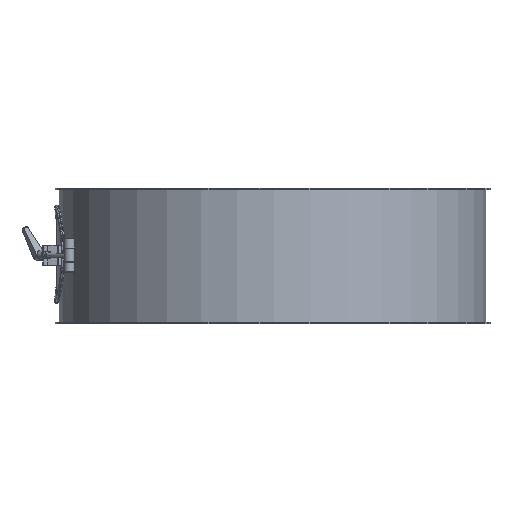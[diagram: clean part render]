
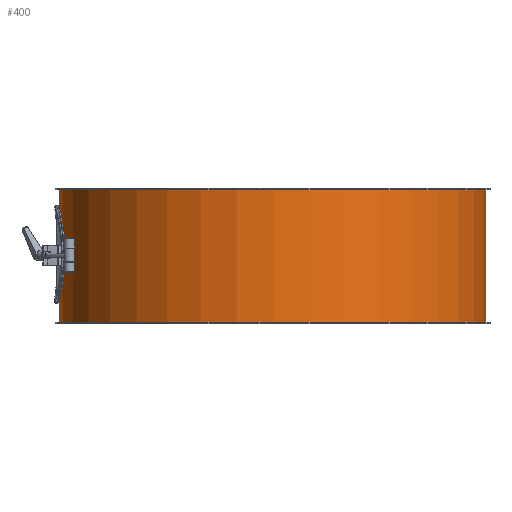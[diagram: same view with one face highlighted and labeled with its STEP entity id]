
A CAD part, front view. The second image highlights one B-rep face of the part: STEP entity #400.
In plain terms, the highlighted cylindrical face has radius 316 mm (diameter 632 mm), a full revolution.
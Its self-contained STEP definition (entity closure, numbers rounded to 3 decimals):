
#185=CARTESIAN_POINT('',(-310.725,-57.5,100.));
#186=VERTEX_POINT('',#185);
#187=CARTESIAN_POINT('',(-310.725,-57.5,100.));
#188=CARTESIAN_POINT('',(-310.725,-57.5,96.381));
#189=CARTESIAN_POINT('',(-310.789,-57.153,92.642));
#190=CARTESIAN_POINT('',(-311.054,-55.694,85.208));
#191=CARTESIAN_POINT('',(-311.254,-54.582,81.514));
#192=CARTESIAN_POINT('',(-311.755,-51.646,74.433));
#193=CARTESIAN_POINT('',(-312.056,-49.818,71.04));
#194=CARTESIAN_POINT('',(-312.7,-45.599,64.769));
#195=CARTESIAN_POINT('',(-313.043,-43.207,61.889));
#196=CARTESIAN_POINT('',(-313.704,-38.111,56.793));
#197=CARTESIAN_POINT('',(-314.046,-35.232,54.401));
#198=CARTESIAN_POINT('',(-314.686,-28.96,50.182));
#199=CARTESIAN_POINT('',(-314.984,-25.567,48.354));
#200=CARTESIAN_POINT('',(-315.479,-18.486,45.418));
#201=CARTESIAN_POINT('',(-315.676,-14.792,44.306));
#202=CARTESIAN_POINT('',(-315.936,-7.358,42.847));
#203=CARTESIAN_POINT('',(-316.0,-3.619,42.5));
#204=CARTESIAN_POINT('',(-316.0,3.619,42.5));
#205=CARTESIAN_POINT('',(-315.936,7.358,42.847));
#206=CARTESIAN_POINT('',(-315.676,14.792,44.306));
#207=CARTESIAN_POINT('',(-315.479,18.486,45.418));
#208=CARTESIAN_POINT('',(-314.984,25.567,48.354));
#209=CARTESIAN_POINT('',(-314.686,28.96,50.182));
#210=CARTESIAN_POINT('',(-314.046,35.232,54.401));
#211=CARTESIAN_POINT('',(-313.704,38.111,56.793));
#212=CARTESIAN_POINT('',(-313.043,43.207,61.889));
#213=CARTESIAN_POINT('',(-312.7,45.599,64.769));
#214=CARTESIAN_POINT('',(-312.056,49.818,71.04));
#215=CARTESIAN_POINT('',(-311.755,51.646,74.433));
#216=CARTESIAN_POINT('',(-311.254,54.582,81.514));
#217=CARTESIAN_POINT('',(-311.054,55.694,85.208));
#218=CARTESIAN_POINT('',(-310.789,57.153,92.642));
#219=CARTESIAN_POINT('',(-310.725,57.5,96.381));
#220=CARTESIAN_POINT('',(-310.725,57.5,103.619));
#221=CARTESIAN_POINT('',(-310.789,57.153,107.358));
#222=CARTESIAN_POINT('',(-311.054,55.694,114.792));
#223=CARTESIAN_POINT('',(-311.254,54.582,118.486));
#224=CARTESIAN_POINT('',(-311.755,51.646,125.567));
#225=CARTESIAN_POINT('',(-312.056,49.818,128.96));
#226=CARTESIAN_POINT('',(-312.7,45.599,135.231));
#227=CARTESIAN_POINT('',(-313.043,43.207,138.111));
#228=CARTESIAN_POINT('',(-313.704,38.111,143.207));
#229=CARTESIAN_POINT('',(-314.046,35.232,145.599));
#230=CARTESIAN_POINT('',(-314.686,28.96,149.818));
#231=CARTESIAN_POINT('',(-314.984,25.567,151.646));
#232=CARTESIAN_POINT('',(-315.479,18.486,154.582));
#233=CARTESIAN_POINT('',(-315.676,14.792,155.694));
#234=CARTESIAN_POINT('',(-315.936,7.358,157.153));
#235=CARTESIAN_POINT('',(-316.0,3.619,157.5));
#236=CARTESIAN_POINT('',(-316.0,-3.619,157.5));
#237=CARTESIAN_POINT('',(-315.936,-7.358,157.153));
#238=CARTESIAN_POINT('',(-315.676,-14.792,155.694));
#239=CARTESIAN_POINT('',(-315.479,-18.486,154.582));
#240=CARTESIAN_POINT('',(-314.984,-25.567,151.646));
#241=CARTESIAN_POINT('',(-314.686,-28.96,149.818));
#242=CARTESIAN_POINT('',(-314.046,-35.232,145.599));
#243=CARTESIAN_POINT('',(-313.704,-38.111,143.207));
#244=CARTESIAN_POINT('',(-313.043,-43.207,138.111));
#245=CARTESIAN_POINT('',(-312.7,-45.599,135.231));
#246=CARTESIAN_POINT('',(-312.056,-49.818,128.96));
#247=CARTESIAN_POINT('',(-311.755,-51.646,125.567));
#248=CARTESIAN_POINT('',(-311.254,-54.582,118.486));
#249=CARTESIAN_POINT('',(-311.054,-55.694,114.792));
#250=CARTESIAN_POINT('',(-310.789,-57.153,107.358));
#251=CARTESIAN_POINT('',(-310.725,-57.5,103.619));
#252=CARTESIAN_POINT('',(-310.725,-57.5,100.0));
#253=B_SPLINE_CURVE_WITH_KNOTS('',3,(#187,#188,#189,#190,#191,#192,#193,#194,#195,#196,#197,#198,#199,#200,#201,#202,#203,#204,#205,#206,#207,#208,#209,#210,#211,#212,#213,#214,#215,#216,#217,#218,#219,#220,#221,#222,#223,#224,#225,#226,#227,#228,#229,#230,#231,#232,#233,#234,#235,#236,#237,#238,#239,#240,#241,#242,#243,#244,#245,#246,#247,#248,#249,#250,#251,#252),.UNSPECIFIED.,.T.,.U.,(4,2,2,2,2,2,2,2,2,2,2,2,2,2,2,2,2,2,2,2,2,2,2,2,2,2,2,2,2,2,2,2,4),(0.0,1.086,2.171,3.257,4.342,5.428,6.514,7.599,8.685,9.77,10.856,11.941,13.027,14.112,15.198,16.284,17.369,18.455,19.54,20.626,21.712,22.797,23.883,24.968,26.054,27.139,28.225,29.311,30.396,31.482,32.567,33.653,34.739),.UNSPECIFIED.);
#254=EDGE_CURVE('',#186,#186,#253,.T.);
#295=CARTESIAN_POINT('',(316.0,0.,198.0));
#296=VERTEX_POINT('',#295);
#297=CARTESIAN_POINT('',(0.0,0.0,198.0));
#298=DIRECTION('',(0.0,0.0,-1.0));
#299=DIRECTION('',(-1.0,0.0,0.0));
#300=AXIS2_PLACEMENT_3D('',#297,#298,#299);
#301=CIRCLE('',#300,316.0);
#302=EDGE_CURVE('',#296,#296,#301,.T.);
#343=CARTESIAN_POINT('',(-316.0,0.,2.0));
#344=VERTEX_POINT('',#343);
#345=CARTESIAN_POINT('',(0.0,0.0,2.0));
#346=DIRECTION('',(0.0,0.0,1.0));
#347=DIRECTION('',(-1.0,0.0,0.0));
#348=AXIS2_PLACEMENT_3D('',#345,#346,#347);
#349=CIRCLE('',#348,316.0);
#350=EDGE_CURVE('',#344,#344,#349,.T.);
#386=CARTESIAN_POINT('',(0.0,0.0,0.0));
#387=DIRECTION('',(0.0,0.0,1.0));
#388=DIRECTION('',(-1.0,0.0,0.0));
#389=AXIS2_PLACEMENT_3D('',#386,#387,#388);
#390=CYLINDRICAL_SURFACE('',#389,316.0);
#391=ORIENTED_EDGE('',*,*,#302,.T.);
#392=EDGE_LOOP('',(#391));
#393=FACE_OUTER_BOUND('',#392,.T.);
#394=ORIENTED_EDGE('',*,*,#254,.T.);
#395=EDGE_LOOP('',(#394));
#396=FACE_BOUND('',#395,.T.);
#397=ORIENTED_EDGE('',*,*,#350,.T.);
#398=EDGE_LOOP('',(#397));
#399=FACE_BOUND('',#398,.T.);
#400=ADVANCED_FACE('',(#393,#396,#399),#390,.T.);
